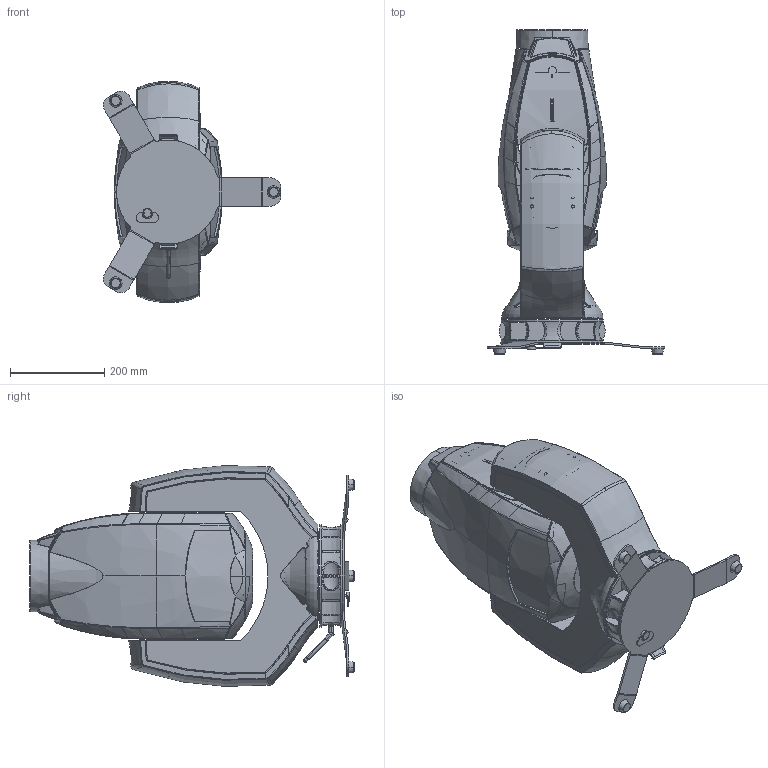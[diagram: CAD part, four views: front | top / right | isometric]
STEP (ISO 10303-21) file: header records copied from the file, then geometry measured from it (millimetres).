
FILE_DESCRIPTION((''),'2;1');
FILE_NAME('TEST1_SW0001','2018-04-19T',('fw'),(''),'CREO PARAMETRIC BY PTC INC, 2016260','CREO PARAMETRIC BY PTC INC, 2016260','');
FILE_SCHEMA(('AUTOMOTIVE_DESIGN { 1 0 10303 214 1 1 1 1 }'));
Products named in the file (1): TEST1_SW0001
Bounding box: 376.56 x 688.59 x 468.89 mm (x, y, z)
Surface area: 1706825.2 mm2 (no closed solid volume)
Topology: 0 solids, 339 shells, 1327 faces, 5404 edges, 4300 vertices
Faces by surface type: bspline 443, cylinder 318, plane 304, torus 97, cone 81, sphere 44, extrusion 40
Entity records: 122159 total; most frequent: CARTESIAN_POINT 74052, ORIENTED_EDGE 7276, DIRECTION 6202, EDGE_CURVE 5387, VERTEX_POINT 4300, B_SPLINE_CURVE_WITH_KNOTS 2444, AXIS2_PLACEMENT_3D 2335, FILL_AREA_STYLE_COLOUR 1558
